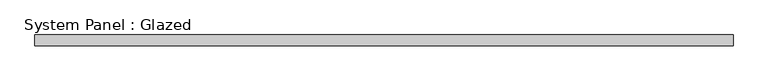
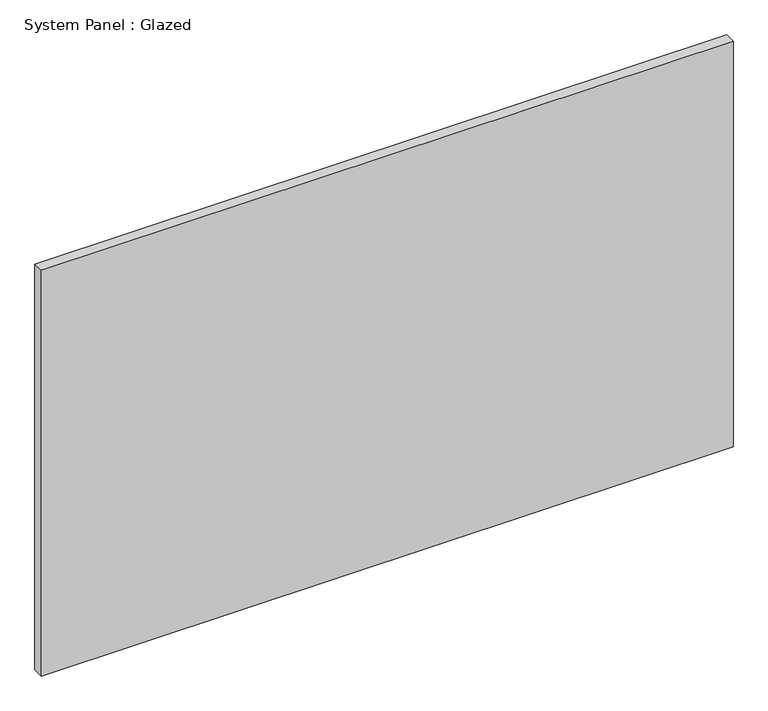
"""IFC4 building model written with IfcOpenShell, lengths in millimetres: plate geometry, System Panel : Glazed."""

from ifc_helpers import new_model, si_unit, origin, origin_with_axes, place, context, project, spatial, polyline, outline, extrude, source, transform, mapped, element, save


def system_panel_glazed_8fd09393(model_context):
    return source(origin(), model_context, "Body", "SweptSolid", [
        extrude(outline(polyline([(806.8423679, 19.05), (-806.8423679, 19.05), (-806.8423679, 44.45), (806.8423679, 44.45), (806.8423679, 19.05)])), origin_with_axes(), (0.0, 0.0, 1.0), 1000.6193103),
    ])


if __name__ == "__main__":
    model = new_model("IFC4")
    model_context = context("Model", 3, world=origin())
    ifc_project = project(units=[si_unit("LENGTHUNIT", "METRE", prefix="MILLI")], contexts=[model_context])
    site = spatial("IfcSite", under=ifc_project)
    building = spatial("IfcBuilding", under=site)
    placement = place(None, origin())
    system_panel_glazed_shape = system_panel_glazed_8fd09393(model_context)
    element("IfcPlate", 1, ObjectType="System Panel : Glazed", at=placement, inside=building, context=model_context, shape_type="MappedRepresentation", body=[
        mapped(system_panel_glazed_shape, transform((0.0, 0.0, 0.0), x_axis=(1.0, 0.0, 0.0), y_axis=(0.0, 1.0, 0.0), z_axis=(0.0, 0.0, 1.0))),
    ])
    save(model, "model.ifc")
